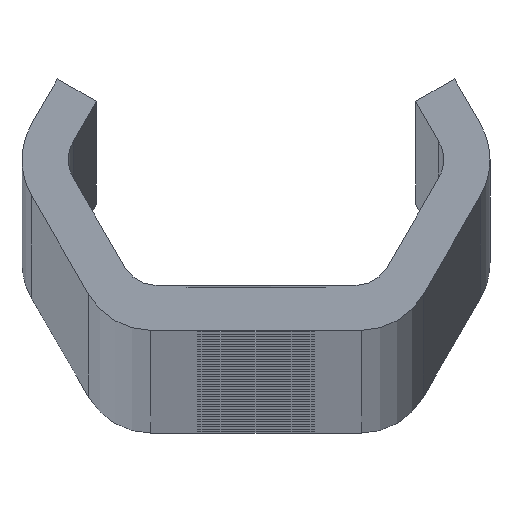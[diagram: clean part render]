
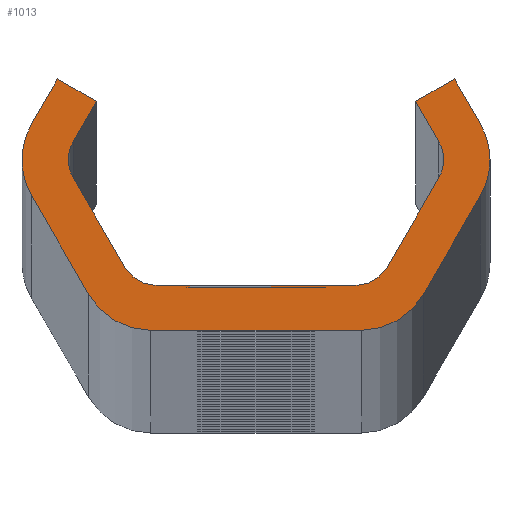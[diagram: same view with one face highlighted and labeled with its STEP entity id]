
A CAD part, top view. The second image highlights one B-rep face of the part: STEP entity #1013.
In plain terms, the highlighted planar face has unit normal (0, 0, 1).
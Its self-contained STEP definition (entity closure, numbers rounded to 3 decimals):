
#1013=ADVANCED_FACE('NONE',(#2738),#2739,.F.);
#2738=FACE_OUTER_BOUND('',#8691,.T.);
#2739=PLANE('',#8692);
#8691=EDGE_LOOP('',(#17836,#17837,#17838,#17839,#17840,#17841,#17842,#17843,#17844,#17845,#17846,#17847,#17848,#17849,#17850,#17851,#17852,#17853,#17854,#17855,#17856,#17857,#17858,#17859,#17860,#17861,#17862,#17863));
#8692=AXIS2_PLACEMENT_3D('',#17864,#17865,#17866);
#17836=ORIENTED_EDGE('',*,*,#23469,.F.);
#17837=ORIENTED_EDGE('',*,*,#23470,.T.);
#17838=ORIENTED_EDGE('',*,*,#23041,.F.);
#17839=ORIENTED_EDGE('',*,*,#23471,.T.);
#17840=ORIENTED_EDGE('',*,*,#23435,.T.);
#17841=ORIENTED_EDGE('',*,*,#23472,.T.);
#17842=ORIENTED_EDGE('',*,*,#22473,.T.);
#17843=ORIENTED_EDGE('',*,*,#23438,.T.);
#17844=ORIENTED_EDGE('',*,*,#23444,.T.);
#17845=ORIENTED_EDGE('',*,*,#23448,.T.);
#17846=ORIENTED_EDGE('',*,*,#23473,.T.);
#17847=ORIENTED_EDGE('',*,*,#22705,.T.);
#17848=ORIENTED_EDGE('',*,*,#23452,.T.);
#17849=ORIENTED_EDGE('',*,*,#23474,.T.);
#17850=ORIENTED_EDGE('',*,*,#23454,.T.);
#17851=ORIENTED_EDGE('',*,*,#23475,.T.);
#17852=ORIENTED_EDGE('',*,*,#23463,.F.);
#17853=ORIENTED_EDGE('',*,*,#23476,.T.);
#17854=ORIENTED_EDGE('',*,*,#22478,.T.);
#17855=ORIENTED_EDGE('',*,*,#23466,.F.);
#17856=ORIENTED_EDGE('',*,*,#23024,.F.);
#17857=ORIENTED_EDGE('',*,*,#23028,.F.);
#17858=ORIENTED_EDGE('',*,*,#22702,.T.);
#17859=ORIENTED_EDGE('',*,*,#23477,.T.);
#17860=ORIENTED_EDGE('',*,*,#23032,.F.);
#17861=ORIENTED_EDGE('',*,*,#23478,.T.);
#17862=ORIENTED_EDGE('',*,*,#23037,.F.);
#17863=ORIENTED_EDGE('',*,*,#23479,.T.);
#17864=CARTESIAN_POINT('',(0.0,0.0,3280.0));
#17865=DIRECTION('',(0.0,0.0,-1.0));
#17866=DIRECTION('',(0.0,-1.0,0.0));
#22473=EDGE_CURVE('NONE',#25029,#25033,#25035,.T.);
#22478=EDGE_CURVE('NONE',#25038,#25042,#25044,.T.);
#22702=EDGE_CURVE('NONE',#25447,#25445,#25448,.T.);
#22705=EDGE_CURVE('NONE',#25451,#25452,#25453,.T.);
#23024=EDGE_CURVE('NONE',#25931,#25933,#25934,.T.);
#23028=EDGE_CURVE('NONE',#25447,#25931,#25938,.T.);
#23032=EDGE_CURVE('NONE',#25943,#25945,#25946,.T.);
#23037=EDGE_CURVE('NONE',#25952,#25954,#25955,.T.);
#23041=EDGE_CURVE('NONE',#25960,#25950,#25962,.T.);
#23435=EDGE_CURVE('NONE',#26726,#26724,#26727,.T.);
#23438=EDGE_CURVE('NONE',#25033,#26730,#26731,.T.);
#23444=EDGE_CURVE('NONE',#26730,#26738,#26740,.T.);
#23448=EDGE_CURVE('NONE',#26738,#26744,#26746,.T.);
#23452=EDGE_CURVE('NONE',#25452,#26750,#26752,.T.);
#23454=EDGE_CURVE('NONE',#26754,#26755,#26756,.T.);
#23463=EDGE_CURVE('NONE',#26768,#26770,#26771,.T.);
#23466=EDGE_CURVE('NONE',#25933,#25042,#26774,.T.);
#23469=EDGE_CURVE('NONE',#26777,#26778,#26779,.T.);
#23470=EDGE_CURVE('NONE',#26777,#25950,#26780,.T.);
#23471=EDGE_CURVE('NONE',#25960,#26726,#26781,.T.);
#23472=EDGE_CURVE('NONE',#26724,#25029,#26782,.T.);
#23473=EDGE_CURVE('NONE',#26744,#25451,#26783,.T.);
#23474=EDGE_CURVE('NONE',#26750,#26754,#26784,.T.);
#23475=EDGE_CURVE('NONE',#26755,#26770,#26785,.T.);
#23476=EDGE_CURVE('NONE',#26768,#25038,#26786,.T.);
#23477=EDGE_CURVE('NONE',#25445,#25945,#26787,.T.);
#23478=EDGE_CURVE('NONE',#25943,#25954,#26788,.T.);
#23479=EDGE_CURVE('NONE',#25952,#26778,#26789,.T.);
#25029=VERTEX_POINT('',#28817);
#25033=VERTEX_POINT('NONE',#28822);
#25035=CIRCLE('',#28825,2.0);
#25038=VERTEX_POINT('',#28828);
#25042=VERTEX_POINT('NONE',#28833);
#25044=CIRCLE('',#28836,4.0);
#25445=VERTEX_POINT('NONE',#32915);
#25447=VERTEX_POINT('NONE',#32918);
#25448=CIRCLE('',#32919,2.0);
#25451=VERTEX_POINT('NONE',#32923);
#25452=VERTEX_POINT('NONE',#32924);
#25453=CIRCLE('',#32925,4.0);
#25931=VERTEX_POINT('NONE',#33484);
#25933=VERTEX_POINT('NONE',#33487);
#25934=LINE('',#33488,#33489);
#25938=LINE('',#33495,#33496);
#25943=VERTEX_POINT('NONE',#33502);
#25945=VERTEX_POINT('NONE',#33505);
#25946=LINE('',#33506,#33507);
#25950=VERTEX_POINT('NONE',#33512);
#25952=VERTEX_POINT('NONE',#33515);
#25954=VERTEX_POINT('NONE',#33518);
#25955=LINE('',#33519,#33520);
#25960=VERTEX_POINT('NONE',#33527);
#25962=LINE('',#33530,#33531);
#26724=VERTEX_POINT('NONE',#36442);
#26726=VERTEX_POINT('NONE',#36445);
#26727=LINE('',#36446,#36447);
#26730=VERTEX_POINT('NONE',#36451);
#26731=LINE('',#36452,#36453);
#26738=VERTEX_POINT('NONE',#36463);
#26740=LINE('',#36466,#36467);
#26744=VERTEX_POINT('NONE',#36472);
#26746=LINE('',#36475,#36476);
#26750=VERTEX_POINT('NONE',#36481);
#26752=LINE('',#36484,#36485);
#26754=VERTEX_POINT('NONE',#36487);
#26755=VERTEX_POINT('NONE',#36488);
#26756=LINE('',#36489,#36490);
#26768=VERTEX_POINT('NONE',#36506);
#26770=VERTEX_POINT('NONE',#36509);
#26771=LINE('',#36510,#36511);
#26774=LINE('',#36515,#36516);
#26777=VERTEX_POINT('NONE',#36520);
#26778=VERTEX_POINT('NONE',#36521);
#26779=LINE('',#36522,#36523);
#26780=LINE('',#36524,#36525);
#26781=CIRCLE('',#36526,2.0);
#26782=CIRCLE('',#36527,2.0);
#26783=CIRCLE('',#36528,4.0);
#26784=CIRCLE('',#36529,4.0);
#26785=CIRCLE('',#36530,4.0);
#26786=CIRCLE('',#36531,4.0);
#26787=CIRCLE('',#36532,2.0);
#26788=CIRCLE('',#36533,2.0);
#26789=LINE('',#36534,#36535);
#28817=CARTESIAN_POINT('',(-10.455,0.,3280.0));
#28822=CARTESIAN_POINT('',(-10.187,1.,3280.0));
#28825=AXIS2_PLACEMENT_3D('',#43381,#43382,#43383);
#28828=CARTESIAN_POINT('',(13.032,0.,3280.0));
#28833=CARTESIAN_POINT('',(12.496,2.0,3280.0));
#28836=AXIS2_PLACEMENT_3D('',#43389,#43390,#43391);
#32915=CARTESIAN_POINT('',(10.455,0.,3280.0));
#32918=CARTESIAN_POINT('',(10.187,1.,3280.0));
#32919=AXIS2_PLACEMENT_3D('',#43496,#43497,#43498);
#32923=CARTESIAN_POINT('',(-13.032,0.,3280.0));
#32924=CARTESIAN_POINT('',(-12.496,-2.,3280.0));
#32925=AXIS2_PLACEMENT_3D('',#43500,#43501,#43502);
#33484=CARTESIAN_POINT('',(8.888,3.25,3280.0));
#33487=CARTESIAN_POINT('',(11.053,4.5,3280.0));
#33488=CARTESIAN_POINT('',(8.888,3.25,3280.0));
#33489=VECTOR('',#44056,1000.0);
#33495=CARTESIAN_POINT('',(10.764,0.,3280.0));
#33496=VECTOR('',#44059,1000.0);
#33502=CARTESIAN_POINT('',(7.3,-6.,3280.0));
#33505=CARTESIAN_POINT('',(10.187,-1.,3280.0));
#33506=CARTESIAN_POINT('',(6.723,-7.0,3280.0));
#33507=VECTOR('',#44062,1000.0);
#33512=CARTESIAN_POINT('',(-3.702,-7.0,3280.0));
#33515=CARTESIAN_POINT('',(0.841,-7.0,3280.0));
#33518=CARTESIAN_POINT('',(5.568,-7.0,3280.0));
#33519=CARTESIAN_POINT('',(-6.723,-7.0,3280.0));
#33520=VECTOR('',#44066,1000.0);
#33527=CARTESIAN_POINT('',(-5.568,-7.0,3280.0));
#33530=CARTESIAN_POINT('',(-6.723,-7.0,3280.0));
#33531=VECTOR('',#44070,1000.0);
#36442=CARTESIAN_POINT('',(-10.187,-1.,3280.0));
#36445=CARTESIAN_POINT('',(-7.3,-6.,3280.0));
#36446=CARTESIAN_POINT('',(-6.723,-7.0,3280.0));
#36447=VECTOR('',#44424,1000.0);
#36451=CARTESIAN_POINT('',(-8.888,3.25,3280.0));
#36452=CARTESIAN_POINT('',(-10.764,0.0,3280.0));
#36453=VECTOR('',#44426,1000.0);
#36463=CARTESIAN_POINT('',(-11.053,4.5,3280.0));
#36466=CARTESIAN_POINT('',(-8.888,3.25,3280.0));
#36467=VECTOR('',#44431,1000.0);
#36472=CARTESIAN_POINT('',(-12.496,2.0,3280.0));
#36475=CARTESIAN_POINT('',(-11.053,4.5,3280.0));
#36476=VECTOR('',#44434,1000.0);
#36481=CARTESIAN_POINT('',(-9.321,-7.5,3280.0));
#36484=CARTESIAN_POINT('',(-13.651,0.0,3280.0));
#36485=VECTOR('',#44437,1000.0);
#36487=CARTESIAN_POINT('',(-5.857,-9.5,3280.0));
#36488=CARTESIAN_POINT('',(5.857,-9.5,3280.0));
#36489=CARTESIAN_POINT('',(-8.166,-9.5,3280.0));
#36490=VECTOR('',#44438,1000.0);
#36506=CARTESIAN_POINT('',(12.496,-2.,3280.0));
#36509=CARTESIAN_POINT('',(9.321,-7.5,3280.0));
#36510=CARTESIAN_POINT('',(13.651,0.,3280.0));
#36511=VECTOR('',#44450,1000.0);
#36515=CARTESIAN_POINT('',(11.053,4.5,3280.0));
#36516=VECTOR('',#44452,1000.0);
#36520=CARTESIAN_POINT('',(-3.702,-7.1,3280.0));
#36521=CARTESIAN_POINT('',(0.841,-7.1,3280.0));
#36522=CARTESIAN_POINT('',(0.,-7.1,3280.0));
#36523=VECTOR('',#44454,1000.0);
#36524=CARTESIAN_POINT('',(-3.702,0.,3280.0));
#36525=VECTOR('',#44455,1000.0);
#36526=AXIS2_PLACEMENT_3D('',#44456,#44457,#44458);
#36527=AXIS2_PLACEMENT_3D('',#44459,#44460,#44461);
#36528=AXIS2_PLACEMENT_3D('',#44462,#44463,#44464);
#36529=AXIS2_PLACEMENT_3D('',#44465,#44466,#44467);
#36530=AXIS2_PLACEMENT_3D('',#44468,#44469,#44470);
#36531=AXIS2_PLACEMENT_3D('',#44471,#44472,#44473);
#36532=AXIS2_PLACEMENT_3D('',#44474,#44475,#44476);
#36533=AXIS2_PLACEMENT_3D('',#44477,#44478,#44479);
#36534=CARTESIAN_POINT('',(0.841,0.,3280.0));
#36535=VECTOR('',#44480,1000.0);
#43381=CARTESIAN_POINT('',(-8.455,0.,3280.0));
#43382=DIRECTION('',(0.0,0.0,-1.0));
#43383=DIRECTION('',(-1.0,0.0,0.0));
#43389=CARTESIAN_POINT('',(9.032,0.,3280.0));
#43390=DIRECTION('',(0.0,0.0,1.0));
#43391=DIRECTION('',(-1.0,0.0,0.0));
#43496=CARTESIAN_POINT('',(8.455,0.,3280.0));
#43497=DIRECTION('',(0.0,0.0,-1.0));
#43498=DIRECTION('',(-1.0,0.0,0.0));
#43500=CARTESIAN_POINT('',(-9.032,0.,3280.0));
#43501=DIRECTION('',(0.0,0.0,1.0));
#43502=DIRECTION('',(-1.0,0.0,0.0));
#44056=DIRECTION('',(0.866,0.5,0.0));
#44059=DIRECTION('',(-0.5,0.866,0.0));
#44062=DIRECTION('',(0.5,0.866,0.0));
#44066=DIRECTION('',(1.0,0.,0.0));
#44070=DIRECTION('',(1.0,0.,0.0));
#44424=DIRECTION('',(-0.5,0.866,0.0));
#44426=DIRECTION('',(0.5,0.866,0.0));
#44431=DIRECTION('',(-0.866,0.5,0.0));
#44434=DIRECTION('',(-0.5,-0.866,0.0));
#44437=DIRECTION('',(0.5,-0.866,0.0));
#44438=DIRECTION('',(1.0,0.,0.0));
#44450=DIRECTION('',(-0.5,-0.866,0.0));
#44452=DIRECTION('',(0.5,-0.866,0.0));
#44454=DIRECTION('',(1.0,0.,0.0));
#44455=DIRECTION('',(0.,1.0,0.0));
#44456=CARTESIAN_POINT('',(-5.568,-5.0,3280.0));
#44457=DIRECTION('',(0.0,0.0,-1.0));
#44458=DIRECTION('',(-1.0,0.0,0.0));
#44459=CARTESIAN_POINT('',(-8.455,0.,3280.0));
#44460=DIRECTION('',(0.0,0.0,-1.0));
#44461=DIRECTION('',(-1.0,0.0,0.0));
#44462=CARTESIAN_POINT('',(-9.032,0.,3280.0));
#44463=DIRECTION('',(0.0,0.0,1.0));
#44464=DIRECTION('',(-1.0,0.0,0.0));
#44465=CARTESIAN_POINT('',(-5.857,-5.5,3280.0));
#44466=DIRECTION('',(0.0,0.0,1.0));
#44467=DIRECTION('',(-1.0,0.0,0.0));
#44468=CARTESIAN_POINT('',(5.857,-5.5,3280.0));
#44469=DIRECTION('',(0.0,0.0,1.0));
#44470=DIRECTION('',(-1.0,0.0,0.0));
#44471=CARTESIAN_POINT('',(9.032,0.,3280.0));
#44472=DIRECTION('',(0.0,0.0,1.0));
#44473=DIRECTION('',(-1.0,0.0,0.0));
#44474=CARTESIAN_POINT('',(8.455,0.,3280.0));
#44475=DIRECTION('',(0.0,0.0,-1.0));
#44476=DIRECTION('',(-1.0,0.0,0.0));
#44477=CARTESIAN_POINT('',(5.568,-5.0,3280.0));
#44478=DIRECTION('',(0.0,0.0,-1.0));
#44479=DIRECTION('',(-1.0,0.0,0.0));
#44480=DIRECTION('',(0.,-1.0,0.0));
